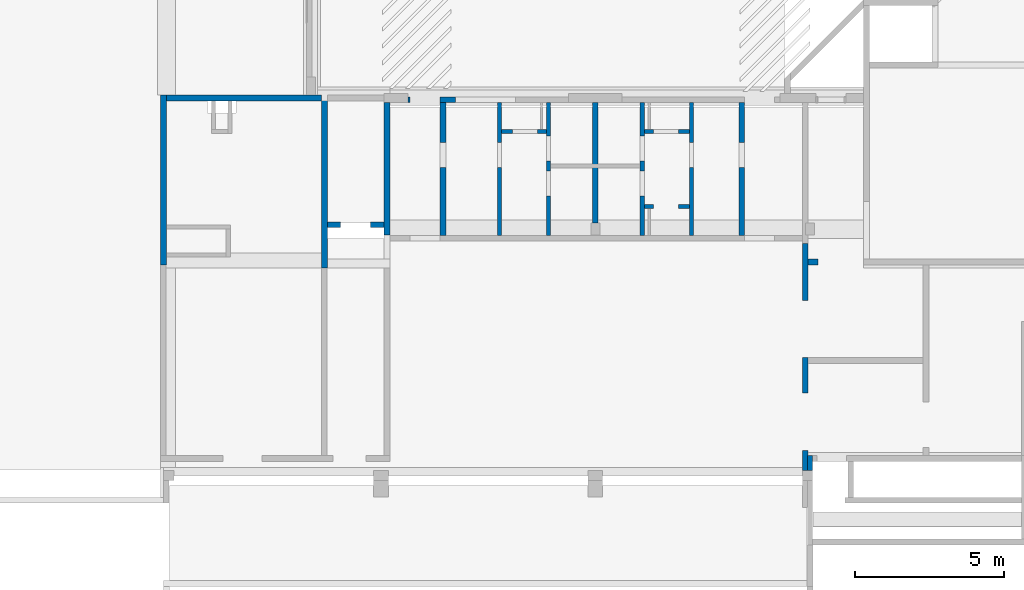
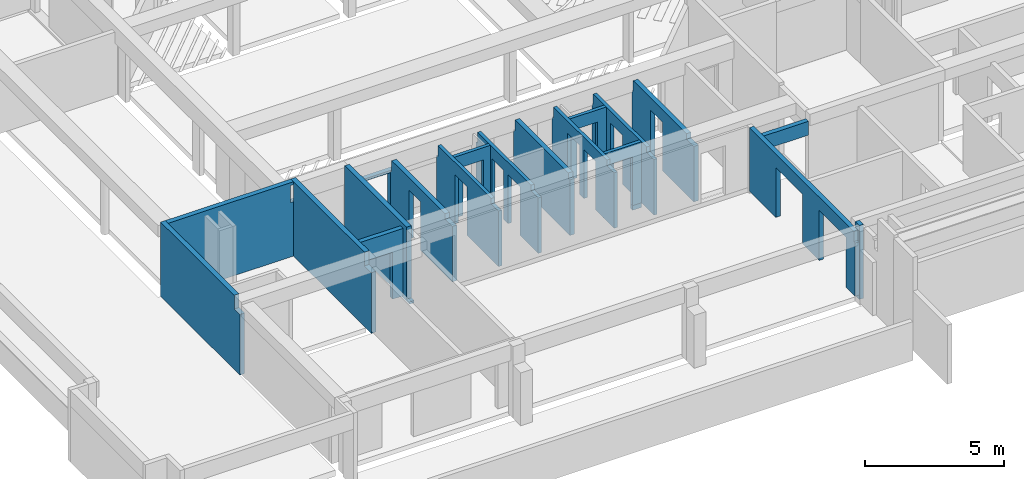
# One storey, part 15 of 22: 20 walls.
"""IFC4X3_ADD2 building model written with IfcOpenShell, lengths in millimetres."""

from ifc_helpers import new_model, si_unit, direction, frame, origin_with_axes, place, context, subcontext, project, spatial, polygons, element, save


model = new_model("IFC4X3_ADD2")

# Units and contexts
model_context = context("Model", 3, precision=1e-05, world=origin_with_axes(), true_north=direction((0.0, 1.0)))
body_context = subcontext(model_context, "Body", "Model", "MODEL_VIEW")
ifc_project = project(units=[si_unit("LENGTHUNIT", "METRE", prefix="MILLI"), si_unit("AREAUNIT", "SQUARE_METRE"), si_unit("VOLUMEUNIT", "CUBIC_METRE"), si_unit("PLANEANGLEUNIT", "RADIAN"), si_unit("TIMEUNIT", "SECOND"), si_unit("MASSUNIT", "GRAM")], contexts=[model_context])

# Site, building, storey
site_placement = place(None, origin_with_axes())
site = spatial("IfcSite", under=ifc_project, at=site_placement, Name="Site", CompositionType="ELEMENT")
building_placement = place(site_placement, origin_with_axes())
building = spatial("IfcBuilding", under=site, at=building_placement, Name="IFC Building Story")
storey_placement = place(building_placement, frame((0.0, 0.0, -3240.0), z_axis=(0.0, 0.0, 1.0), x_axis=(1.0, 0.0, 0.0)))
storey = spatial("IfcBuildingStorey", under=building, at=storey_placement, Name="K10", Elevation=-3240.0)

# Walls
wall_1_placement = place(storey_placement, frame((0.0, 0.0, 3240.0), z_axis=(0.0, 0.0, 1.0), x_axis=(1.0, 0.0, 0.0)))
element("IfcWall", 1, at=wall_1_placement, inside=storey, Name="Basic Wall:BB_XX_Wand uit beton, 170 mm", ObjectType="Basic Wall:BB_XX_Wand uit beton, 170 mm", PredefinedType="SOLIDWALL", context=body_context, shape_type="Tessellation", body=[
    polygons([(-21805.0, 95.0, -3440.0), (-21805.0, 595.000000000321, -3440.0), (-21805.0, 595.000000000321, -3340.0), (-21805.0, 595.000000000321, -610.0), (-21805.0, 395.00000000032, -610.0), (-21805.0, 395.00000000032, -200.0), (-21805.0, 95.0, -200.0), (-21975.0, 595.000000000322, -3440.0), (-21975.0, 95.0, -3440.0), (-21975.0, 95.0, -3240.0), (-21975.0, 95.0, -900.0), (-21975.0, 95.0, -200.0), (-21975.0, 395.000000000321, -200.0), (-21975.0, 395.000000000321, -610.0), (-21975.0, 595.000000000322, -610.0), (-21975.0, 595.000000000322, -3239.999999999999), (-21955.0, 595.000000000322, -610.0)], [[[5, 6, 7]], [[5, 7, 1]], [[5, 1, 3]], [[3, 4, 5]], [[1, 2, 3]], [[14, 15, 11]], [[11, 12, 13]], [[11, 13, 14]], [[15, 16, 10]], [[15, 10, 11]], [[16, 8, 9]], [[16, 9, 10]], [[2, 1, 9, 8]], [[12, 7, 6, 13]], [[10, 9, 1]], [[1, 7, 11]], [[1, 11, 10]], [[7, 12, 11]], [[17, 4, 3]], [[17, 3, 16]], [[16, 15, 17]], [[3, 2, 8]], [[3, 8, 16]], [[5, 14, 13, 6]], [[17, 15, 14]], [[14, 5, 4]], [[14, 4, 17]]]),
])
wall_2_placement = place(storey_placement, frame((0.0, 0.0, 3240.0), z_axis=(0.0, 0.0, 1.0), x_axis=(1.0, 0.0, 0.0)))
element("IfcWall", 2, at=wall_2_placement, inside=storey, Name="Basic Wall:BB_XX_Wand uit beton, 200 mm", ObjectType="Basic Wall:BB_XX_Wand uit beton, 200 mm", PredefinedType="SOLIDWALL", context=body_context, shape_type="Tessellation", body=[
    polygons([(-38100.0, 6900.0, -3340.0), (-38100.0, 12700.00406588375, -3340.0), (-38100.0, 12700.00406588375, -3240.0), (-38100.0, 12700.00406588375, -950.0), (-38100.0, 12500.00000000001, -950.0), (-38100.0, 12500.00000000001, -200.0), (-38100.0, 12700.00406588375, -200.0), (-38100.0, 12700.00406588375, -80.0), (-38100.0, 12500.004065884, -80.0), (-38100.0, 7400.0, -80.0), (-38100.0, 7400.0, -680.0), (-38100.0, 6900.0, -680.0), (-38300.0, 12700.00406588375, -3340.0), (-38300.0, 12500.00406588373, -3340.0), (-38300.0, 6900.0, -3340.0), (-38300.0, 6900.0, -680.0), (-38300.0, 7399.999999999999, -680.0), (-38300.0, 7400.0, -80.0), (-38300.0, 12500.00406588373, -80.0), (-38300.0, 12700.00406588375, -80.0), (-38300.0, 12700.00406588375, -200.0), (-38300.0, 12500.00000000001, -200.0), (-38300.0, 12500.00000000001, -950.0), (-38300.0, 12700.00406588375, -950.0)], [[[6, 7, 8]], [[6, 8, 9]], [[11, 12, 5]], [[6, 9, 10]], [[10, 11, 5]], [[10, 5, 6]], [[12, 1, 3]], [[12, 3, 5]], [[3, 4, 5]], [[1, 2, 3]], [[19, 20, 21]], [[19, 21, 22]], [[22, 23, 17]], [[22, 17, 18]], [[18, 19, 22]], [[23, 14, 15]], [[23, 15, 17]], [[15, 16, 17]], [[23, 24, 13]], [[23, 13, 14]], [[14, 13, 2]], [[2, 1, 15]], [[2, 15, 14]], [[19, 18, 10]], [[19, 10, 9]], [[9, 8, 20]], [[9, 20, 19]], [[15, 1, 12, 16]], [[20, 8, 7, 21]], [[11, 17, 16, 12]], [[17, 11, 10, 18]], [[23, 5, 4, 24]], [[5, 23, 22, 6]], [[6, 22, 21, 7]], [[3, 2, 13]], [[13, 24, 4]], [[13, 4, 3]]]),
])
wall_3_placement = place(storey_placement, frame((0.0, 0.0, 3240.0), z_axis=(0.0, 0.0, 1.0), x_axis=(1.0, 0.0, 0.0)))
element("IfcWall", 3, at=wall_3_placement, inside=storey, Name="Basic Wall:BB_XX_Wand uit beton, 200 mm", ObjectType="Basic Wall:BB_XX_Wand uit beton, 200 mm", PredefinedType="SOLIDWALL", context=body_context, shape_type="Tessellation", body=[
    polygons([(-36200.00000000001, 12450.0, -3340.0), (-36200.0, 7799.99999999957, -3340.0), (-36200.0, 7799.99999999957, -3240.0), (-36200.0, 8000.0, -3240.0), (-36200.0, 8000.0, -80.0), (-36200.00000000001, 12450.0, -80.0), (-36000.0, 12450.0, -3340.0), (-36000.0, 12450.0, -80.0), (-36000.0, 8000.0, -80.0), (-36000.0, 8000.0, -3240.0), (-36000.0, 7799.99999999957, -3240.0), (-36000.0, 7799.99999999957, -3340.0)], [[[4, 5, 6]], [[4, 6, 1]], [[1, 2, 4]], [[2, 3, 4]], [[10, 11, 12]], [[10, 12, 7]], [[7, 8, 9]], [[7, 9, 10]], [[2, 1, 7, 12]], [[6, 5, 9, 8]], [[1, 6, 8, 7]], [[10, 4, 3, 11]], [[3, 2, 12, 11]], [[4, 10, 9, 5]]]),
])
wall_4_placement = place(storey_placement, frame((0.0, 0.0, 3240.0), z_axis=(0.0, 0.0, 1.0), x_axis=(1.0, 0.0, 0.0)))
element("IfcWall", 4, at=wall_4_placement, inside=storey, Name="Basic Wall:BB_XX_Wand uit beton, 200 mm", ObjectType="Basic Wall:BB_XX_Wand uit beton, 200 mm", PredefinedType="SOLIDWALL", context=body_context, shape_type="Tessellation", body=[
    polygons([(-43500.00000000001, 7000.0, -3340.0), (-43500.00000000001, 12700.00406588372, -3340.0), (-43500.00000000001, 12700.00406588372, -80.0), (-43500.00000000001, 7399.999999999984, -80.0), (-43500.00000000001, 7399.999999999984, -680.0), (-43500.00000000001, 7000.0, -680.0), (-43700.00000000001, 12700.00406588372, -3340.0), (-43700.00000000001, 7000.0, -3340.0), (-43700.00000000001, 7000.0, -680.0), (-43700.0000000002, 7399.999999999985, -680.0), (-43700.00000000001, 7399.999999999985, -80.0), (-43700.00000000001, 12700.00406588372, -80.0)], [[[5, 6, 1]], [[5, 1, 2]], [[5, 2, 3]], [[3, 4, 5]], [[10, 11, 12]], [[12, 7, 8]], [[12, 8, 10]], [[8, 9, 10]], [[2, 1, 8, 7]], [[3, 2, 7, 12]], [[3, 12, 11, 4]], [[8, 1, 6, 9]], [[5, 10, 9, 6]], [[10, 5, 4, 11]]]),
])
wall_5_placement = place(storey_placement, frame((0.0, 0.0, 3240.0), z_axis=(0.0, 0.0, 1.0), x_axis=(1.0, 0.0, 0.0)))
element("IfcWall", 5, at=wall_5_placement, inside=storey, Name="Basic Wall:BB_XX_Wand uit beton, 200 mm", ObjectType="Basic Wall:BB_XX_Wand uit beton, 200 mm", PredefinedType="SOLIDWALL", context=body_context, shape_type="Tessellation", body=[
    polygons([(-43500.0, 12500.0040658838, -3340.0), (-38299.99999999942, 12500.0040658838, -3340.0), (-38299.99999999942, 12500.0040658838, -950.0), (-38430.00000000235, 12500.00271058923, -950.0), (-38430.00000000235, 12500.00271058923, -200.0), (-38299.99999999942, 12500.0040658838, -200.0), (-38299.99999999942, 12500.0040658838, -80.0), (-43500.0, 12500.0040658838, -80.0), (-38299.99999999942, 12700.0040658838, -3340.0), (-43500.0, 12700.0040658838, -3340.0), (-43500.0, 12700.0040658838, -80.0), (-38299.99999999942, 12700.0040658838, -80.0), (-38299.99999999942, 12700.0040658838, -200.0), (-38430.00000000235, 12700.0040658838, -200.0), (-38430.00000000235, 12700.0040658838, -950.0), (-38299.99999999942, 12700.0040658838, -950.0)], [[[5, 6, 7]], [[5, 7, 8]], [[8, 4, 5]], [[8, 1, 2]], [[8, 2, 4]], [[2, 3, 4]], [[15, 16, 9]], [[15, 9, 10]], [[15, 10, 11]], [[11, 14, 15]], [[11, 12, 14]], [[12, 13, 14]], [[2, 1, 10, 9]], [[8, 7, 12, 11]], [[1, 8, 11, 10]], [[2, 9, 16, 3]], [[15, 4, 3, 16]], [[14, 5, 4, 15]], [[5, 14, 13, 6]], [[12, 7, 6, 13]]]),
])
wall_6_placement = place(storey_placement, frame((0.0, 0.0, 3240.0), z_axis=(0.0, 0.0, 1.0), x_axis=(1.0, 0.0, 0.0)))
element("IfcWall", 6, at=wall_6_placement, inside=storey, Name="Basic Wall:BB_XX_Wand uit metselwerk, 190 mm", ObjectType="Basic Wall:BB_XX_Wand uit metselwerk, 190 mm", PredefinedType="SOLIDWALL", context=body_context, shape_type="Tessellation", body=[
    polygons([(-33799.99999999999, 12640.0, -3240.0), (-34310.0, 12640.0, -3240.0), (-34309.99999999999, 12640.0, -1050.0), (-35320.0, 12640.0, -1050.0), (-35320.0, 12640.0, -3240.0), (-35400.0, 12640.0, -3240.0), (-35400.0, 12640.0, -950.0), (-33799.99999999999, 12640.0, -950.0), (-33799.99999999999, 12450.0, -3240.0), (-33799.99999999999, 12450.0, -950.0), (-35400.0, 12450.0, -950.0), (-35400.0, 12450.0, -3240.0), (-35320.0, 12450.0, -3240.0), (-35320.0, 12450.0, -1050.0), (-34309.99999999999, 12450.0, -1050.0), (-34310.0, 12450.0, -3240.0)], [[[4, 5, 6]], [[4, 6, 7]], [[7, 8, 3]], [[7, 3, 4]], [[8, 1, 2]], [[8, 2, 3]], [[15, 16, 9]], [[15, 9, 10]], [[10, 11, 14]], [[10, 14, 15]], [[11, 12, 13]], [[11, 13, 14]], [[2, 1, 9, 16]], [[7, 6, 12, 11]], [[8, 7, 11, 10]], [[1, 8, 10, 9]], [[3, 2, 16, 15]], [[4, 3, 15, 14]], [[5, 4, 14, 13]], [[6, 5, 13, 12]]]),
])
wall_7_placement = place(storey_placement, frame((0.0, 0.0, 3240.0), z_axis=(0.0, 0.0, 1.0), x_axis=(1.0, 0.0, 0.0)))
element("IfcWall", 7, at=wall_7_placement, inside=storey, Name="Basic Wall:BB_03.09.24#05_Wand uit metselwerk_EI60, 190 mm", ObjectType="Basic Wall:BB_03.09.24#05_Wand uit metselwerk_EI60, 190 mm", PredefinedType="SOLIDWALL", context=body_context, shape_type="Tessellation", body=[
    polygons([(-21955.0, 7712.49999999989, -3240.0), (-21955.0, 7712.49999999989, -460.0), (-21955.0, 7000.00000000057, -460.0), (-21955.0, 6825.00000000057, -460.0), (-21955.0, 3885.00000000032, -460.0), (-21955.0, 3695.00000000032, -460.0), (-21955.0, 695.000000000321, -460.0), (-21955.0, 695.000000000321, -610.0), (-21955.0, 595.000000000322, -610.0), (-21955.0, 595.000000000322, -3240.0), (-21955.0, 770.000000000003, -3240.0), (-21955.0, 770.000000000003, -1050.0), (-21955.0, 2690.0, -1050.0), (-21955.0, 2690.0, -3240.0), (-21955.0, 3695.00000000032, -3240.0), (-21955.0, 3885.00000000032, -3240.0), (-21955.0, 3885.00000000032, -1050.0), (-21955.0, 5805.00000000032, -1050.0), (-21955.0, 5805.00000000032, -3240.0), (-21955.0, 6825.00000000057, -3240.0), (-21955.0, 7000.00000000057, -3240.0), (-22145.0, 7712.49999999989, -460.0), (-22145.0, 7712.49999999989, -3240.0), (-22145.0, 5805.00000000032, -3240.0), (-22145.0, 5805.00000000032, -1050.0), (-22145.0, 3885.00000000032, -1050.0), (-22145.0, 3885.00000000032, -3240.0), (-22145.0, 2690.0, -3240.0), (-22145.0, 2690.0, -1050.0), (-22145.0, 770.000000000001, -1050.0), (-22145.0, 770.000000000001, -3240.0), (-22145.0, 95.0, -3240.0), (-22145.0, 95.0, -900.0), (-22145.0, 195.000000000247, -900.0), (-22145.0, 195.000000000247, -460.0), (-21975.0, 195.000000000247, -460.0), (-21975.0, 695.000000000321, -460.0), (-21975.0, 195.000000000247, -900.0), (-21975.0, 95.0, -900.0), (-21975.0, 95.0, -3240.0), (-21975.0, 695.000000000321, -610.0), (-21975.0, 595.000000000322, -3240.0), (-21975.0, 595.000000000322, -610.0)], [[[8, 9, 10]], [[8, 10, 11]], [[8, 11, 12]], [[13, 14, 15]], [[13, 15, 6]], [[6, 7, 8]], [[6, 8, 12]], [[6, 12, 13]], [[17, 5, 6]], [[6, 15, 16]], [[6, 16, 17]], [[18, 19, 20]], [[18, 20, 4]], [[4, 5, 17]], [[4, 17, 18]], [[20, 21, 3]], [[20, 3, 4]], [[21, 1, 2]], [[21, 2, 3]], [[34, 35, 30]], [[30, 31, 32]], [[30, 32, 34]], [[32, 33, 34]], [[35, 29, 30]], [[35, 26, 29]], [[26, 27, 28]], [[26, 28, 29]], [[35, 22, 25]], [[35, 25, 26]], [[22, 23, 24]], [[22, 24, 25]], [[15, 14, 28]], [[15, 28, 27]], [[27, 16, 15]], [[2, 1, 23, 22]], [[37, 7, 6]], [[3, 2, 22]], [[22, 4, 3]], [[22, 5, 4]], [[22, 6, 5]], [[22, 35, 6]], [[35, 37, 6]], [[35, 36, 37]], [[35, 34, 38, 36]], [[34, 33, 39, 38]], [[33, 32, 40, 39]], [[12, 30, 29, 13]], [[13, 29, 28, 14]], [[30, 12, 11, 31]], [[17, 26, 25, 18]], [[18, 25, 24, 19]], [[26, 17, 16, 27]], [[38, 39, 40]], [[40, 42, 43]], [[40, 43, 38]], [[43, 41, 37]], [[37, 36, 38]], [[37, 38, 43]], [[8, 41, 43, 9]], [[37, 41, 8, 7]], [[43, 42, 10, 9]], [[42, 40, 32]], [[42, 32, 31]], [[31, 11, 42]], [[11, 10, 42]], [[20, 19, 24]], [[20, 24, 23]], [[23, 21, 20]], [[23, 1, 21]]]),
])
wall_8_placement = place(storey_placement, frame((0.0, 0.0, 3240.0), z_axis=(0.0, 0.0, 1.0), x_axis=(1.0, 0.0, 0.0)))
element("IfcWall", 8, at=wall_8_placement, inside=storey, Name="Basic Wall:BB_03.12.81#03_Wand uit cellenbeton, 140 mm", ObjectType="Basic Wall:BB_03.12.81#03_Wand uit cellenbeton, 140 mm", PredefinedType="SOLIDWALL", context=body_context, shape_type="Tessellation", body=[
    polygons([(-25945.0, 8890.0, -460.0), (-27455.0, 8890.0, -460.0), (-27455.0, 8890.0, -3340.0), (-27154.99999999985, 8890.0, -3340.0), (-27154.99999999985, 8890.0, -1000.0), (-26314.99999999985, 8890.0, -1000.0), (-26314.99999999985, 8890.0, -3340.0), (-25945.0, 8890.0, -3340.0), (-27455.0, 9030.0, -460.0), (-25945.0, 9030.000000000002, -460.0), (-25945.0, 9030.000000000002, -3340.0), (-26314.99999999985, 9030.0, -3340.0), (-26314.99999999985, 9030.0, -1000.0), (-27154.99999999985, 9030.0, -1000.0), (-27154.99999999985, 9030.0, -3340.0), (-27455.0, 9030.0, -3340.0)], [[[6, 7, 8]], [[6, 8, 1]], [[1, 2, 5]], [[1, 5, 6]], [[2, 3, 4]], [[2, 4, 5]], [[14, 15, 16]], [[14, 16, 9]], [[9, 10, 13]], [[9, 13, 14]], [[10, 11, 12]], [[10, 12, 13]], [[3, 16, 15, 4]], [[2, 1, 10, 9]], [[13, 6, 5, 14]], [[14, 5, 4, 15]], [[6, 13, 12, 7]], [[2, 9, 16, 3]], [[8, 11, 10, 1]], [[11, 8, 7, 12]]]),
])
wall_9_placement = place(storey_placement, frame((0.0, 0.0, 3240.0), z_axis=(0.0, 0.0, 1.0), x_axis=(1.0, 0.0, 0.0)))
element("IfcWall", 9, at=wall_9_placement, inside=storey, Name="Basic Wall:BB_03.09.24#05_Wand uit metselwerk_EI60, 190 mm", ObjectType="Basic Wall:BB_03.09.24#05_Wand uit metselwerk_EI60, 190 mm", PredefinedType="SOLIDWALL", context=body_context, shape_type="Tessellation", body=[
    polygons([(-24095.0, 12450.00000000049, -3140.0), (-24095.0, 12450.00000000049, -950.0), (-24095.0, 12350.00000000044, -950.0), (-24095.0, 12350.00000000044, -460.0), (-24095.0, 8510.000000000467, -460.0), (-24095.0, 8510.000000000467, -700.0), (-24095.0, 7990.0, -700.0), (-24095.0, 7990.0, -970.0), (-24095.0, 7990.0, -3140.0), (-24095.0, 10260.0000000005, -3140.0), (-24095.0, 10260.0000000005, -1000.0), (-24095.0, 11100.0000000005, -1000.0), (-24095.0, 11100.0000000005, -3140.0), (-24285.0, 12450.00000000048, -950.0), (-24285.0, 12450.00000000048, -3140.0), (-24285.0, 11100.0000000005, -3140.0), (-24285.0, 11100.0000000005, -1000.0), (-24285.0, 10260.0000000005, -1000.0), (-24285.0, 10260.0000000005, -3140.0), (-24285.0, 7990.0, -3140.0), (-24285.0, 7989.999999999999, -700.0), (-24285.0, 8510.000000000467, -700.0), (-24285.0, 8510.000000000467, -460.0), (-24285.0, 12350.00000000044, -460.0), (-24285.0, 12350.00000000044, -950.0)], [[[8, 9, 10]], [[8, 10, 11]], [[8, 11, 6]], [[6, 7, 8]], [[12, 3, 4]], [[4, 5, 6]], [[4, 6, 11]], [[4, 11, 12]], [[12, 13, 1]], [[12, 1, 3]], [[1, 2, 3]], [[22, 23, 18]], [[18, 19, 20]], [[18, 20, 21]], [[18, 21, 22]], [[23, 24, 17]], [[23, 17, 18]], [[25, 14, 15]], [[25, 15, 16]], [[25, 16, 17]], [[17, 24, 25]], [[9, 20, 19, 10]], [[2, 1, 15, 14]], [[5, 4, 24, 23]], [[6, 5, 23, 22]], [[7, 6, 22, 21]], [[3, 2, 14, 25]], [[4, 3, 25, 24]], [[17, 12, 11, 18]], [[18, 11, 10, 19]], [[12, 17, 16, 13]], [[8, 7, 21]], [[21, 20, 9]], [[21, 9, 8]], [[15, 1, 13, 16]]]),
])
wall_10_placement = place(storey_placement, frame((0.0, 0.0, 3240.0), z_axis=(0.0, 0.0, 1.0), x_axis=(1.0, 0.0, 0.0)))
element("IfcWall", 10, at=wall_10_placement, inside=storey, Name="Basic Wall:BB_03.09.24#03_Wand uit metselwerk, 190 mm", ObjectType="Basic Wall:BB_03.09.24#03_Wand uit metselwerk, 190 mm", PredefinedType="SOLIDWALL", context=body_context, shape_type="Tessellation", body=[
    polygons([(-29005.0, 8400.0, -3140.0), (-29005.0, 10250.00000000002, -3140.0), (-29005.0, 10390.00000000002, -3140.0), (-29005.0, 12450.00000000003, -3140.0), (-29005.0, 12450.00000000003, -950.0), (-29005.0, 12349.99999999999, -950.0), (-29005.0, 12349.99999999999, -460.0), (-29005.0, 10390.00000000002, -460.0), (-29005.0, 10250.00000000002, -460.0), (-29005.0, 8509.999999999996, -460.0), (-29005.0, 8509.999999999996, -700.0), (-29005.0, 8400.0, -700.0), (-29195.0, 8400.0, -3140.0), (-29195.0, 8400.0, -700.0), (-29195.0, 8509.999999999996, -700.0), (-29195.0, 8509.999999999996, -460.0), (-29195.0, 10250.00000000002, -460.0), (-29195.0, 10390.00000000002, -460.0), (-29195.0, 12349.99999999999, -460.0), (-29195.0, 12349.99999999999, -950.0), (-29195.0, 12450.00000000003, -950.0), (-29195.0, 12450.00000000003, -3140.0), (-29195.0, 10390.00000000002, -3140.0), (-29195.0, 10250.00000000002, -3140.0)], [[[6, 7, 8]], [[8, 3, 4]], [[8, 4, 6]], [[4, 5, 6]], [[8, 9, 2]], [[8, 2, 3]], [[11, 12, 1]], [[11, 1, 2]], [[11, 2, 9]], [[9, 10, 11]], [[18, 19, 15]], [[15, 17, 18]], [[15, 16, 17]], [[20, 21, 22]], [[24, 13, 15]], [[15, 23, 24]], [[20, 22, 23]], [[23, 15, 19]], [[23, 19, 20]], [[13, 14, 15]], [[2, 1, 13]], [[2, 13, 24]], [[24, 23, 3]], [[24, 3, 2]], [[23, 22, 4]], [[23, 4, 3]], [[5, 4, 22, 21]], [[8, 7, 19]], [[8, 19, 18]], [[18, 17, 9]], [[18, 9, 8]], [[17, 16, 10]], [[17, 10, 9]], [[1, 12, 14, 13]], [[11, 10, 16, 15]], [[12, 11, 15, 14]], [[6, 5, 21, 20]], [[7, 6, 20, 19]]]),
])
wall_11_placement = place(storey_placement, frame((0.0, 0.0, 3240.0), z_axis=(0.0, 0.0, 1.0), x_axis=(1.0, 0.0, 0.0)))
element("IfcWall", 11, at=wall_11_placement, inside=storey, Name="Basic Wall:BB_03.09.24#05_Wand uit metselwerk_EI60, 190 mm", ObjectType="Basic Wall:BB_03.09.24#05_Wand uit metselwerk_EI60, 190 mm", PredefinedType="SOLIDWALL", context=body_context, shape_type="Tessellation", body=[
    polygons([(-34119.99999999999, 12450.00000000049, -3140.0), (-34119.99999999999, 12450.00000000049, -950.0), (-34119.99999999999, 12350.00000000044, -950.0), (-34119.99999999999, 12350.00000000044, -460.0), (-34120.0, 8510.000000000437, -460.0), (-34120.0, 8510.000000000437, -700.0), (-34120.0, 7990.0, -700.0), (-34120.0, 7990.0, -3140.0), (-34120.0, 10260.00000000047, -3140.0), (-34120.0, 10260.00000000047, -1000.0), (-34120.0, 11100.00000000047, -1000.0), (-34120.0, 11100.00000000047, -3140.0), (-34310.0, 12450.00000000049, -950.0), (-34310.0, 12450.00000000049, -3140.0), (-34310.0, 11100.00000000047, -3140.0), (-34309.99999999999, 11100.00000000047, -1000.0), (-34310.0, 10260.00000000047, -1000.0), (-34310.0, 10260.00000000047, -3140.0), (-34310.0, 7990.0, -3140.0), (-34310.0, 7990.0, -970.0), (-34310.0, 7990.0, -700.0), (-34310.0, 8510.000000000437, -700.0), (-34310.0, 8510.000000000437, -460.0), (-34310.0, 12350.00000000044, -460.0), (-34310.0, 12350.00000000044, -950.0)], [[[6, 7, 8]], [[6, 8, 9]], [[6, 9, 10]], [[11, 3, 4]], [[4, 5, 6]], [[4, 6, 10]], [[4, 10, 11]], [[11, 12, 1]], [[11, 1, 3]], [[1, 2, 3]], [[22, 23, 17]], [[17, 20, 22]], [[20, 21, 22]], [[17, 18, 19]], [[17, 19, 20]], [[23, 24, 16]], [[23, 16, 17]], [[25, 13, 14]], [[25, 14, 15]], [[25, 15, 16]], [[16, 24, 25]], [[8, 19, 18, 9]], [[2, 1, 14, 13]], [[5, 4, 24, 23]], [[6, 5, 23, 22]], [[7, 6, 22, 21]], [[3, 2, 13, 25]], [[4, 3, 25, 24]], [[16, 11, 10, 17]], [[17, 10, 9, 18]], [[11, 16, 15, 12]], [[20, 19, 8]], [[20, 8, 7]], [[7, 21, 20]], [[14, 1, 12, 15]]]),
])
wall_12_placement = place(storey_placement, frame((0.0, 0.0, 3240.0), z_axis=(0.0, 0.0, 1.0), x_axis=(1.0, 0.0, 0.0)))
element("IfcWall", 12, at=wall_12_placement, inside=storey, Name="Basic Wall:BB_03.09.24#01_Wand uit metselwerk, 140 mm", ObjectType="Basic Wall:BB_03.09.24#01_Wand uit metselwerk, 140 mm", PredefinedType="SOLIDWALL", context=body_context, shape_type="Tessellation", body=[
    polygons([(-32255.0, 12450.00000000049, -3140.0), (-32255.0, 12450.00000000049, -950.0), (-32255.0, 12350.00000000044, -950.0), (-32255.0, 12350.00000000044, -460.0), (-32255.0, 11550.00000000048, -460.0), (-32255.0, 11410.00000000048, -460.0), (-32255.0, 8510.000000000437, -460.0), (-32255.0, 8510.000000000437, -700.0), (-32255.0, 7990.0, -700.0), (-32255.0, 7990.0, -3140.0), (-32255.0, 10260.00000000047, -3140.0), (-32255.0, 10260.00000000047, -1000.0), (-32255.0, 11100.00000000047, -1000.0), (-32255.0, 11100.00000000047, -3140.0), (-32255.0, 11410.00000000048, -3140.0), (-32255.0, 11550.00000000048, -3140.0), (-32395.0, 12450.00000000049, -950.0), (-32395.0, 12450.00000000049, -3140.0), (-32395.0, 11100.00000000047, -3140.0), (-32395.0, 11100.00000000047, -1000.0), (-32395.0, 10260.00000000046, -1000.0), (-32395.0, 10260.00000000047, -3140.0), (-32395.0, 7990.0, -3140.0), (-32395.0, 7990.0, -700.0), (-32395.0, 8510.000000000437, -700.0), (-32395.0, 8510.000000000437, -460.0), (-32395.0, 12350.00000000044, -460.0), (-32395.0, 12350.00000000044, -950.0)], [[[8, 9, 10]], [[8, 10, 11]], [[8, 11, 12]], [[12, 13, 6]], [[12, 6, 7]], [[12, 7, 8]], [[13, 5, 6]], [[13, 3, 4]], [[13, 4, 5]], [[16, 1, 3]], [[16, 3, 13]], [[13, 15, 16]], [[13, 14, 15]], [[1, 2, 3]], [[25, 26, 21]], [[21, 22, 23]], [[21, 23, 24]], [[21, 24, 25]], [[26, 27, 20]], [[26, 20, 21]], [[28, 17, 18]], [[28, 18, 19]], [[28, 19, 20]], [[20, 27, 28]], [[10, 23, 22, 11]], [[2, 1, 18, 17]], [[5, 4, 27]], [[27, 6, 5]], [[27, 26, 7]], [[27, 7, 6]], [[8, 7, 26, 25]], [[9, 8, 25, 24]], [[3, 2, 17, 28]], [[4, 3, 28, 27]], [[20, 13, 12, 21]], [[21, 12, 11, 22]], [[13, 20, 19, 14]], [[10, 9, 24, 23]], [[15, 14, 19]], [[19, 16, 15]], [[19, 18, 1]], [[19, 1, 16]]]),
])
wall_13_placement = place(storey_placement, frame((0.0, 0.0, 3240.0), z_axis=(0.0, 0.0, 1.0), x_axis=(1.0, 0.0, 0.0)))
element("IfcWall", 13, at=wall_13_placement, inside=storey, Name="Basic Wall:BB_03.09.24#01_Wand uit metselwerk, 140 mm", ObjectType="Basic Wall:BB_03.09.24#01_Wand uit metselwerk, 140 mm", PredefinedType="SOLIDWALL", context=body_context, shape_type="Tessellation", body=[
    polygons([(-30605.0, 12450.00000000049, -3140.0), (-30605.0, 12450.00000000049, -950.0), (-30605.0, 12350.00000000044, -950.0), (-30605.0, 12350.00000000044, -460.0), (-30605.0, 10390.00000000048, -460.0), (-30605.0, 10250.00000000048, -460.0), (-30605.0, 8510.000000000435, -460.0), (-30605.0, 8510.000000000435, -700.0), (-30605.0, 7989.999999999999, -700.0), (-30605.0, 7989.999999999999, -3140.0), (-30605.0, 9310.00000000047, -3140.0), (-30605.0, 9310.00000000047, -1000.0), (-30605.0, 10150.00000000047, -1000.0), (-30605.0, 10150.00000000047, -3140.0), (-30605.0, 10250.00000000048, -3140.0), (-30605.0, 10390.00000000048, -3140.0), (-30605.0, 10490.00000000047, -3140.0), (-30605.0, 10490.00000000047, -1000.0), (-30605.0, 11330.00000000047, -1000.0), (-30605.0, 11330.00000000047, -3140.0), (-30745.0, 12450.00000000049, -950.0), (-30745.0, 12450.00000000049, -3140.0), (-30745.0, 11550.00000000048, -3140.0), (-30745.0, 11410.00000000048, -3140.0), (-30745.0, 11330.00000000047, -3140.0), (-30745.0, 11330.00000000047, -1000.0), (-30745.0, 10490.00000000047, -1000.0), (-30745.0, 10490.00000000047, -3140.0), (-30745.0, 10150.00000000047, -3140.0), (-30745.0, 10150.00000000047, -1000.0), (-30745.0, 9310.00000000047, -1000.0), (-30745.0, 9310.00000000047, -3140.0), (-30745.0, 7989.999999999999, -3140.0), (-30745.0, 7989.999999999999, -700.0), (-30745.0, 8510.000000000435, -700.0), (-30745.0, 8510.000000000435, -460.0), (-30745.0, 11410.00000000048, -460.0), (-30745.0, 11550.00000000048, -460.0), (-30745.0, 12350.00000000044, -460.0), (-30745.0, 12350.00000000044, -950.0)], [[[8, 9, 10]], [[8, 10, 11]], [[8, 11, 12]], [[13, 14, 15]], [[13, 15, 6]], [[6, 7, 8]], [[6, 8, 12]], [[6, 12, 13]], [[15, 16, 5]], [[15, 5, 6]], [[19, 3, 4]], [[19, 4, 5]], [[5, 18, 19]], [[5, 16, 17]], [[5, 17, 18]], [[19, 20, 1]], [[19, 1, 3]], [[1, 2, 3]], [[35, 36, 31]], [[31, 32, 33]], [[31, 33, 34]], [[31, 34, 35]], [[36, 30, 31]], [[36, 27, 30]], [[27, 28, 29]], [[27, 29, 30]], [[36, 37, 27]], [[37, 26, 27]], [[37, 24, 25]], [[37, 25, 26]], [[37, 38, 23]], [[37, 23, 24]], [[40, 21, 22]], [[40, 22, 23]], [[40, 23, 38]], [[38, 39, 40]], [[10, 33, 32, 11]], [[2, 1, 22, 21]], [[38, 37, 5]], [[38, 5, 4]], [[4, 39, 38]], [[37, 6, 5]], [[37, 36, 7]], [[37, 7, 6]], [[8, 7, 36, 35]], [[9, 8, 35, 34]], [[3, 2, 21, 40]], [[4, 3, 40, 39]], [[26, 19, 18, 27]], [[27, 18, 17, 28]], [[19, 26, 25, 20]], [[12, 31, 30, 13]], [[13, 30, 29, 14]], [[31, 12, 11, 32]], [[10, 9, 34, 33]], [[15, 14, 29]], [[29, 28, 16]], [[29, 16, 15]], [[28, 17, 16]], [[23, 22, 1]], [[23, 1, 20]], [[20, 24, 23]], [[20, 25, 24]]]),
])
wall_14_placement = place(storey_placement, frame((0.0, 0.0, 3240.0), z_axis=(0.0, 0.0, 1.0), x_axis=(1.0, 0.0, 0.0)))
element("IfcWall", 14, at=wall_14_placement, inside=storey, Name="Basic Wall:BB_03.09.24#01_Wand uit metselwerk, 140 mm", ObjectType="Basic Wall:BB_03.09.24#01_Wand uit metselwerk, 140 mm", PredefinedType="SOLIDWALL", context=body_context, shape_type="Tessellation", body=[
    polygons([(-27455.0, 12450.00000000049, -3140.0), (-27455.0, 12450.00000000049, -950.0), (-27455.0, 12350.00000000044, -950.0), (-27455.0, 12350.00000000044, -460.0), (-27455.0, 11550.00000000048, -460.0), (-27455.0, 11410.00000000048, -460.0), (-27455.0, 9030.0, -460.0), (-27455.0, 8889.999999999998, -460.0), (-27455.00000000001, 8510.000000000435, -460.0), (-27455.00000000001, 8510.000000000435, -700.0), (-27455.0, 7990.0, -700.0), (-27455.0, 7990.0, -3140.0), (-27455.0, 8889.999999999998, -3140.0), (-27455.0, 9030.0, -3140.0), (-27455.0, 9310.00000000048, -3140.0), (-27455.0, 9310.00000000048, -1000.0), (-27455.0, 10150.00000000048, -1000.0), (-27455.0, 10150.00000000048, -3140.0), (-27455.0, 10490.00000000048, -3140.0), (-27455.0, 10490.00000000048, -1000.0), (-27455.0, 11330.00000000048, -1000.0), (-27455.0, 11330.00000000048, -3140.0), (-27455.0, 11410.00000000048, -3140.0), (-27455.0, 11550.00000000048, -3140.0), (-27595.0, 12450.00000000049, -950.0), (-27595.0, 12450.00000000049, -3140.0), (-27595.0, 11330.00000000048, -3140.0), (-27595.0, 11330.00000000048, -1000.0), (-27595.0, 10490.00000000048, -1000.0), (-27595.0, 10490.00000000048, -3140.0), (-27595.0, 10390.00000000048, -3140.0), (-27595.0, 10250.00000000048, -3140.0), (-27595.0, 10150.00000000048, -3140.0), (-27595.0, 10150.00000000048, -1000.0), (-27595.0, 9310.00000000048, -1000.0), (-27595.0, 9310.00000000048, -3140.0), (-27595.0, 7990.0, -3140.0), (-27595.0, 7990.0, -700.0), (-27595.0, 8510.000000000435, -700.0), (-27595.0, 8510.000000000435, -460.0), (-27595.0, 10250.00000000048, -460.0), (-27595.0, 10390.00000000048, -460.0), (-27595.0, 12350.00000000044, -460.0), (-27595.0, 12350.00000000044, -950.0)], [[[10, 11, 12]], [[10, 12, 13]], [[13, 8, 10]], [[8, 9, 10]], [[13, 14, 7]], [[13, 7, 8]], [[20, 21, 6]], [[6, 17, 20]], [[17, 18, 19]], [[17, 19, 20]], [[6, 7, 17]], [[7, 16, 17]], [[7, 14, 15]], [[7, 15, 16]], [[21, 5, 6]], [[21, 3, 4]], [[21, 4, 5]], [[24, 1, 3]], [[24, 3, 21]], [[21, 23, 24]], [[21, 22, 23]], [[1, 2, 3]], [[39, 40, 35]], [[35, 36, 37]], [[35, 37, 38]], [[35, 38, 39]], [[40, 41, 34]], [[40, 34, 35]], [[41, 32, 33]], [[41, 33, 34]], [[41, 42, 29]], [[41, 29, 31]], [[41, 31, 32]], [[29, 30, 31]], [[42, 28, 29]], [[44, 25, 26]], [[28, 42, 43]], [[44, 26, 27]], [[44, 27, 28]], [[28, 43, 44]], [[13, 12, 37]], [[13, 37, 36]], [[36, 14, 13]], [[36, 15, 14]], [[2, 1, 26, 25]], [[5, 4, 43]], [[43, 6, 5]], [[41, 40, 7]], [[41, 7, 6]], [[6, 42, 41]], [[6, 43, 42]], [[40, 8, 7]], [[40, 9, 8]], [[10, 9, 40, 39]], [[11, 10, 39, 38]], [[3, 2, 25, 44]], [[4, 3, 44, 43]], [[16, 35, 34, 17]], [[17, 34, 33, 18]], [[35, 16, 15, 36]], [[28, 21, 20, 29]], [[29, 20, 19, 30]], [[21, 28, 27, 22]], [[12, 11, 38, 37]], [[31, 30, 19]], [[19, 18, 32]], [[19, 32, 31]], [[18, 33, 32]], [[23, 22, 27]], [[27, 24, 23]], [[27, 26, 1]], [[27, 1, 24]]]),
])
wall_15_placement = place(storey_placement, frame((0.0, 0.0, 3240.0), z_axis=(0.0, 0.0, 1.0), x_axis=(1.0, 0.0, 0.0)))
element("IfcWall", 15, at=wall_15_placement, inside=storey, Name="Basic Wall:BB_03.09.24#01_Wand uit metselwerk, 140 mm", ObjectType="Basic Wall:BB_03.09.24#01_Wand uit metselwerk, 140 mm", PredefinedType="SOLIDWALL", context=body_context, shape_type="Tessellation", body=[
    polygons([(-25805.0, 12450.00000000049, -3140.0), (-25805.0, 12450.00000000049, -950.0), (-25805.0, 12350.00000000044, -950.0), (-25805.0, 12350.00000000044, -460.0), (-25805.0, 8510.000000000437, -460.0), (-25805.0, 8510.000000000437, -700.0), (-25805.0, 7990.0, -700.0), (-25805.0, 7990.0, -3140.0), (-25805.0, 10260.00000000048, -3140.0), (-25805.0, 10260.00000000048, -1000.0), (-25805.0, 11100.00000000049, -1000.0), (-25805.0, 11100.00000000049, -3140.0), (-25945.0, 12450.00000000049, -950.0), (-25945.0, 12450.00000000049, -3140.0), (-25945.0, 11550.00000000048, -3140.0), (-25945.0, 11410.00000000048, -3140.0), (-25945.0, 11100.00000000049, -3140.0), (-25945.0, 11100.00000000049, -1000.0), (-25945.0, 10260.00000000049, -1000.0), (-25945.0, 10260.00000000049, -3140.0), (-25945.0, 9030.0, -3140.0), (-25945.0, 8889.999999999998, -3140.0), (-25945.0, 7989.999999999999, -3140.0), (-25945.0, 7989.999999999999, -700.0), (-25945.0, 8510.000000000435, -700.0), (-25945.0, 8510.000000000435, -460.0), (-25945.0, 8889.999999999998, -460.0), (-25945.0, 9030.0, -460.0), (-25945.0, 11410.00000000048, -460.0), (-25945.0, 11550.00000000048, -460.0), (-25945.0, 12350.00000000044, -460.0), (-25945.0, 12350.00000000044, -950.0)], [[[6, 7, 8]], [[6, 8, 9]], [[6, 9, 10]], [[11, 3, 4]], [[4, 5, 6]], [[4, 6, 10]], [[4, 10, 11]], [[11, 12, 1]], [[11, 1, 3]], [[1, 2, 3]], [[25, 26, 27]], [[25, 27, 22]], [[22, 23, 24]], [[22, 24, 25]], [[27, 28, 19]], [[27, 19, 21]], [[27, 21, 22]], [[19, 20, 21]], [[28, 29, 19]], [[29, 18, 19]], [[29, 16, 17]], [[29, 17, 18]], [[29, 30, 15]], [[29, 15, 16]], [[32, 13, 14]], [[32, 14, 15]], [[32, 15, 30]], [[30, 31, 32]], [[21, 20, 9]], [[21, 9, 8]], [[8, 22, 21]], [[8, 23, 22]], [[2, 1, 14, 13]], [[27, 26, 5]], [[5, 28, 27]], [[5, 4, 29]], [[5, 29, 28]], [[4, 30, 29]], [[4, 31, 30]], [[6, 5, 26, 25]], [[7, 6, 25, 24]], [[3, 2, 13, 32]], [[4, 3, 32, 31]], [[18, 11, 10, 19]], [[19, 10, 9, 20]], [[11, 18, 17, 12]], [[8, 7, 24, 23]], [[15, 14, 1]], [[15, 1, 12]], [[12, 16, 15]], [[12, 17, 16]]]),
])
wall_16_placement = place(storey_placement, frame((0.0, 0.0, 3240.0), z_axis=(0.0, 0.0, 1.0), x_axis=(1.0, 0.0, 0.0)))
element("IfcWall", 16, at=wall_16_placement, inside=storey, Name="Basic Wall:BB_03.09.24#01_Wand uit metselwerk, 140 mm", ObjectType="Basic Wall:BB_03.09.24#01_Wand uit metselwerk, 140 mm", PredefinedType="SOLIDWALL", context=body_context, shape_type="Tessellation", body=[
    polygons([(-25945.0, 8890.0, -460.0), (-27455.0, 8890.0, -460.0), (-27455.0, 8890.0, -3140.0), (-27154.99999999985, 8890.0, -3140.0), (-27154.99999999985, 8890.0, -1000.0), (-26314.99999999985, 8890.0, -1000.0), (-26314.99999999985, 8890.0, -3140.0), (-25945.0, 8890.0, -3140.0), (-27455.0, 9030.0, -460.0), (-25945.0, 9030.000000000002, -460.0), (-25945.0, 9030.000000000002, -3140.0), (-26314.99999999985, 9030.0, -3140.0), (-26314.99999999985, 9030.0, -1000.0), (-27154.99999999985, 9030.0, -1000.0), (-27154.99999999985, 9030.0, -3140.0), (-27455.0, 9030.0, -3140.0)], [[[6, 7, 8]], [[6, 8, 1]], [[1, 2, 5]], [[1, 5, 6]], [[2, 3, 4]], [[2, 4, 5]], [[14, 15, 16]], [[14, 16, 9]], [[9, 10, 13]], [[9, 13, 14]], [[10, 11, 12]], [[10, 12, 13]], [[3, 16, 15, 4]], [[2, 1, 10, 9]], [[3, 2, 9, 16]], [[1, 8, 11, 10]], [[13, 6, 5, 14]], [[14, 5, 4, 15]], [[6, 13, 12, 7]], [[11, 8, 7, 12]]]),
])
wall_17_placement = place(storey_placement, frame((0.0, 0.0, 3240.0), z_axis=(0.0, 0.0, 1.0), x_axis=(1.0, 0.0, 0.0)))
element("IfcWall", 17, at=wall_17_placement, inside=storey, Name="Basic Wall:BB_03.09.24#01_Wand uit metselwerk, 140 mm", ObjectType="Basic Wall:BB_03.09.24#01_Wand uit metselwerk, 140 mm", PredefinedType="SOLIDWALL", context=body_context, shape_type="Tessellation", body=[
    polygons([(-27455.0, 11550.0, -460.0), (-25945.0, 11550.0, -460.0), (-25945.0, 11550.0, -3140.0), (-26314.99999999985, 11550.0, -3140.0), (-26314.99999999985, 11550.0, -1000.0), (-27154.99999999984, 11550.0, -1000.0), (-27154.99999999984, 11550.0, -3140.0), (-27455.0, 11550.0, -3140.0), (-25945.0, 11410.0, -460.0), (-27455.0, 11410.0, -460.0), (-27455.0, 11410.0, -3140.0), (-27154.99999999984, 11410.0, -3140.0), (-27154.99999999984, 11410.0, -1000.0), (-26314.99999999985, 11410.0, -1000.0), (-26314.99999999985, 11410.0, -3140.0), (-25945.0, 11410.0, -3140.0)], [[[6, 7, 8]], [[6, 8, 1]], [[1, 2, 5]], [[1, 5, 6]], [[2, 3, 4]], [[2, 4, 5]], [[14, 15, 16]], [[14, 16, 9]], [[9, 10, 13]], [[9, 13, 14]], [[10, 11, 12]], [[10, 12, 13]], [[3, 16, 15, 4]], [[2, 1, 10, 9]], [[1, 8, 11, 10]], [[3, 2, 9, 16]], [[5, 14, 13, 6]], [[6, 13, 12, 7]], [[14, 5, 4, 15]], [[11, 8, 7, 12]]]),
])
wall_18_placement = place(storey_placement, frame((0.0, 0.0, 3240.0), z_axis=(0.0, 0.0, 1.0), x_axis=(1.0, 0.0, 0.0)))
element("IfcWall", 18, at=wall_18_placement, inside=storey, Name="Basic Wall:BB_03.09.24#01_Wand uit metselwerk, 140 mm", ObjectType="Basic Wall:BB_03.09.24#01_Wand uit metselwerk, 140 mm", PredefinedType="SOLIDWALL", context=body_context, shape_type="Tessellation", body=[
    polygons([(-32255.0, 11550.0, -460.0), (-30745.0, 11550.0, -460.0), (-30745.0, 11550.0, -3140.0), (-31045.00000000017, 11550.0, -3140.0), (-31045.00000000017, 11550.0, -1000.0), (-31885.00000000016, 11550.0, -1000.0), (-31885.00000000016, 11550.0, -3140.0), (-32255.0, 11550.0, -3140.0), (-30745.0, 11410.0, -460.0), (-32255.0, 11410.0, -460.0), (-32255.0, 11410.0, -3140.0), (-31885.00000000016, 11410.0, -3140.0), (-31885.00000000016, 11410.0, -1000.0), (-31045.00000000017, 11410.0, -1000.0), (-31045.00000000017, 11410.0, -3140.0), (-30745.0, 11410.0, -3140.0)], [[[6, 7, 8]], [[6, 8, 1]], [[1, 2, 5]], [[1, 5, 6]], [[2, 3, 4]], [[2, 4, 5]], [[14, 15, 16]], [[14, 16, 9]], [[9, 10, 13]], [[9, 13, 14]], [[10, 11, 12]], [[10, 12, 13]], [[3, 16, 15, 4]], [[2, 1, 10, 9]], [[1, 8, 11, 10]], [[3, 2, 9, 16]], [[13, 6, 5, 14]], [[14, 5, 4, 15]], [[6, 13, 12, 7]], [[11, 8, 7, 12]]]),
])
wall_19_placement = place(storey_placement, frame((0.0, 0.0, 3240.0), z_axis=(0.0, 0.0, 1.0), x_axis=(1.0, 0.0, 0.0)))
element("IfcWall", 19, at=wall_19_placement, inside=storey, Name="Basic Wall:BB_03.09.24#05_Wand uit metselwerk_EI60, 190 mm", ObjectType="Basic Wall:BB_03.09.24#05_Wand uit metselwerk_EI60, 190 mm", PredefinedType="SOLIDWALL", context=body_context, shape_type="Tessellation", body=[
    polygons([(-38100.0, 8250.00406588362, -3240.0), (-37655.00000000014, 8250.004065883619, -3239.999999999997), (-37655.00000000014, 8250.004065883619, -1180.0), (-36645.00000000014, 8250.004065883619, -1180.0), (-36645.00000000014, 8250.004065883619, -3239.999999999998), (-36364.99999999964, 8250.00406588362, -3239.999999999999), (-36200.0000000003, 8250.00406588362, -3240.0), (-36200.0000000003, 8250.00406588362, -280.0), (-36364.99999999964, 8250.00406588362, -280.0), (-38100.0, 8250.00406588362, -280.0), (-37655.00000000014, 8440.004065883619, -1180.0), (-37655.00000000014, 8440.004065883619, -3239.999999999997), (-38100.0, 8440.00406588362, -3240.0), (-38100.0, 8440.00406588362, -280.0), (-36200.0000000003, 8440.00406588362, -280.0), (-36200.0000000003, 8440.00406588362, -3240.0), (-36645.00000000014, 8440.004065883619, -3239.999999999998), (-36645.00000000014, 8440.004065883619, -1180.0)], [[[6, 7, 8]], [[6, 8, 9]], [[6, 9, 4]], [[4, 5, 6]], [[9, 10, 3]], [[9, 3, 4]], [[10, 1, 2]], [[10, 2, 3]], [[11, 12, 13]], [[11, 13, 14]], [[18, 11, 14]], [[18, 14, 15]], [[15, 16, 17]], [[15, 17, 18]], [[13, 12, 2, 1]], [[9, 8, 15]], [[15, 14, 10]], [[15, 10, 9]], [[1, 10, 14, 13]], [[8, 7, 16, 15]], [[5, 4, 18, 17]], [[3, 2, 12, 11]], [[4, 3, 11, 18]], [[6, 5, 17]], [[6, 17, 16]], [[16, 7, 6]]]),
])
wall_20_placement = place(storey_placement, frame((0.0, 0.0, 3240.0), z_axis=(0.0, 0.0, 1.0), x_axis=(1.0, 0.0, 0.0)))
element("IfcWall", 20, at=wall_20_placement, inside=storey, Name="Basic Wall:BB_03.09.24#05_Wand uit metselwerk_EI60, 190 mm", ObjectType="Basic Wall:BB_03.09.24#05_Wand uit metselwerk_EI60, 190 mm", PredefinedType="SOLIDWALL", context=body_context, shape_type="Tessellation", body=[
    polygons([(-20100.0, 7190.0, -1066.0), (-21622.50000000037, 7190.0, -1066.0), (-21622.50000000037, 7190.0, -3240.0), (-21780.00000000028, 7190.0, -3240.0), (-21955.00000000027, 7190.0, -3240.0), (-21955.00000000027, 7190.0, -460.0), (-21780.00000000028, 7190.0, -460.0), (-20100.0, 7190.0, -460.0), (-20100.0, 7000.0, -1066.0), (-20100.0, 7000.0, -460.0), (-21955.00000000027, 7000.0, -460.0), (-21955.00000000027, 7000.0, -3240.0), (-21622.50000000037, 7000.0, -3240.0), (-21622.50000000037, 7000.0, -1066.0)], [[[4, 5, 6]], [[4, 6, 2]], [[2, 3, 4]], [[7, 8, 1]], [[7, 1, 2]], [[2, 6, 7]], [[14, 9, 10]], [[14, 10, 11]], [[11, 12, 13]], [[11, 13, 14]], [[4, 3, 13]], [[13, 12, 5]], [[13, 5, 4]], [[6, 5, 12, 11]], [[7, 6, 11]], [[11, 10, 8]], [[11, 8, 7]], [[1, 8, 10, 9]], [[2, 1, 9, 14]], [[3, 2, 14, 13]]]),
])

save(model, "model.ifc")
